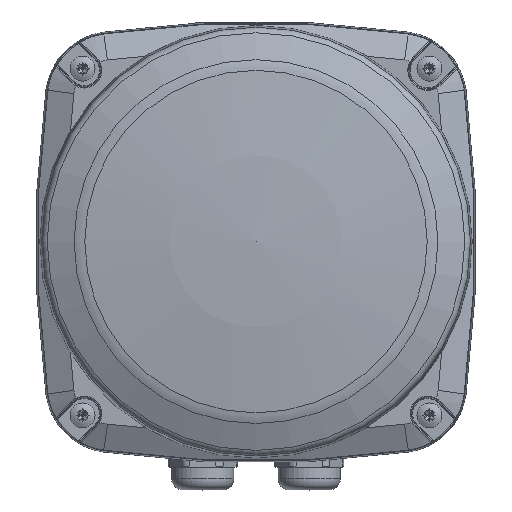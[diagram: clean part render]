
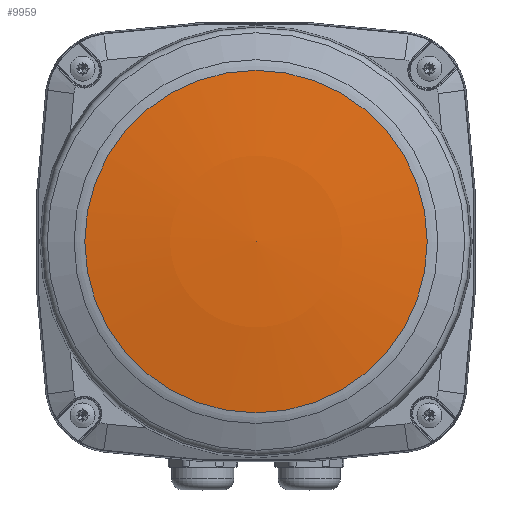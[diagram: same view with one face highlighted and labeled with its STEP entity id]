
A CAD part, top view. The second image highlights one B-rep face of the part: STEP entity #9959.
In plain terms, the highlighted spherical face has radius 288 mm.
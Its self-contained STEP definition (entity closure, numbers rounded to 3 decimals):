
#117=SPHERICAL_SURFACE('',#43913,288.);
#7726=FACE_OUTER_BOUND('',#15087,.T.);
#9959=ADVANCED_FACE('',(#7726),#117,.T.);
#12251=CIRCLE('',#43912,38.519);
#15087=EDGE_LOOP('',(#26429));
#26429=ORIENTED_EDGE('',*,*,#37108,.T.);
#32531=VERTEX_POINT('',#74580);
#37108=EDGE_CURVE('',#32531,#32531,#12251,.T.);
#43912=AXIS2_PLACEMENT_3D('',#74579,#50561,#50562);
#43913=AXIS2_PLACEMENT_3D('',#74581,#50563,#50564);
#50561=DIRECTION('',(0.,0.,1.));
#50562=DIRECTION('',(0.,-1.,0.));
#50563=DIRECTION('',(0.,0.,1.));
#50564=DIRECTION('',(0.,1.,0.));
#74579=CARTESIAN_POINT('',(0.,0.,81.982));
#74580=CARTESIAN_POINT('',(0.,-38.519,81.982));
#74581=CARTESIAN_POINT('',(0.,0.,-203.43));
